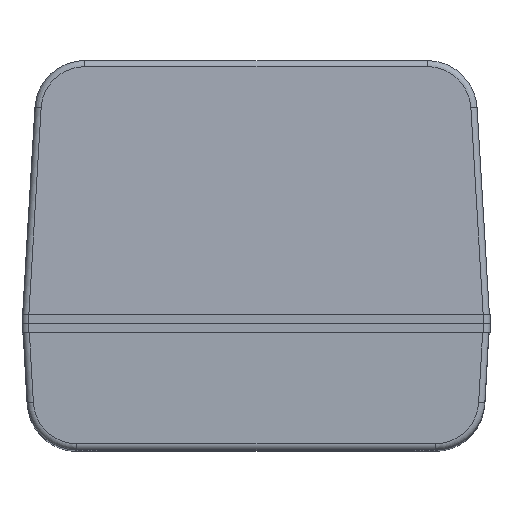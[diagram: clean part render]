
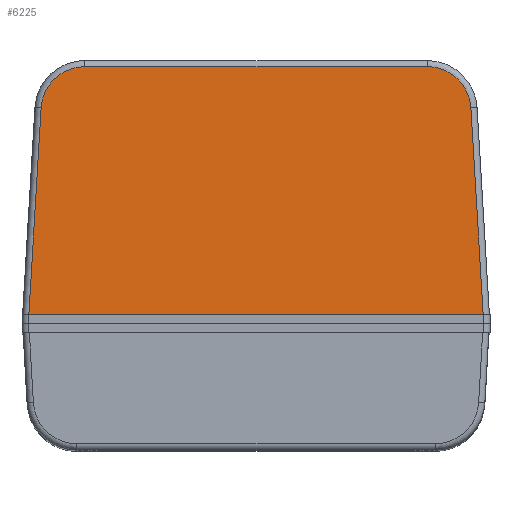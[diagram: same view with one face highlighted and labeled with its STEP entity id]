
A CAD part, top view. The second image highlights one B-rep face of the part: STEP entity #6225.
In plain terms, the highlighted planar face has unit normal (0, 0.018, 1).
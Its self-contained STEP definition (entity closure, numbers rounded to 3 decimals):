
#598 = CARTESIAN_POINT ( 'NONE',  ( -27.5, 41.218, 64.768 ) ) ;
#932 = DIRECTION ( 'NONE',  ( 0., -0.018, -1. ) ) ;
#1044 = VERTEX_POINT ( 'NONE', #5350 ) ;
#1201 = CARTESIAN_POINT ( 'NONE',  ( 34.488, 34.634, 64.889 ) ) ;
#1369 = VECTOR ( 'NONE', #1580, 1000. ) ;
#1505 = ORIENTED_EDGE ( 'NONE', *, *, #11378, .T. ) ;
#1580 = DIRECTION ( 'NONE',  ( -0.059, 0.998, -0.018 ) ) ;
#1985 = VECTOR ( 'NONE', #10039, 1000. ) ;
#2092 = EDGE_CURVE ( 'NONE', #4449, #7872, #11106, .T. ) ;
#2468 = CARTESIAN_POINT ( 'NONE',  ( -27.5, 41.218, 64.768 ) ) ;
#2507 = CARTESIAN_POINT ( 'NONE',  ( -31.41, 41.218, 64.768 ) ) ;
#2821 = ORIENTED_EDGE ( 'NONE', *, *, #6419, .T. ) ;
#3110 =( BOUNDED_CURVE ( )  B_SPLINE_CURVE ( 3, ( #598, #2507, #3537, #14192 ),
 .UNSPECIFIED., .F., .T. ) 
 B_SPLINE_CURVE_WITH_KNOTS ( ( 4, 4 ),
 ( 3.142, 4.653 ),
 .UNSPECIFIED. ) 
 CURVE ( )  GEOMETRIC_REPRESENTATION_ITEM ( )  RATIONAL_B_SPLINE_CURVE ( ( 1., 0.819, 0.819, 1. ) ) 
 REPRESENTATION_ITEM ( '' )  );
#3537 = CARTESIAN_POINT ( 'NONE',  ( -34.255, 38.537, 64.817 ) ) ;
#3585 = CARTESIAN_POINT ( 'NONE',  ( 37.238, 1.5, 65.5 ) ) ;
#4449 = VERTEX_POINT ( 'NONE', #8213 ) ;
#4625 = CARTESIAN_POINT ( 'NONE',  ( 31.41, 41.218, 64.768 ) ) ;
#5161 = VERTEX_POINT ( 'NONE', #7602 ) ;
#5350 = CARTESIAN_POINT ( 'NONE',  ( 27.5, 41.218, 64.768 ) ) ;
#6002 = FACE_OUTER_BOUND ( 'NONE', #10119, .T. ) ;
#6225 = ADVANCED_FACE ( 'NONE', ( #6002 ), #12633, .F. ) ;
#6233 = EDGE_CURVE ( 'NONE', #5161, #13722, #3110, .T. ) ;
#6419 = EDGE_CURVE ( 'NONE', #1044, #5161, #14416, .T. ) ;
#7278 = CARTESIAN_POINT ( 'NONE',  ( 34.489, 34.616, 64.89 ) ) ;
#7363 =( BOUNDED_CURVE ( )  B_SPLINE_CURVE ( 3, ( #10215, #15117, #4625, #12839 ),
 .UNSPECIFIED., .F., .F. ) 
 B_SPLINE_CURVE_WITH_KNOTS ( ( 4, 4 ),
 ( 1.63, 3.142 ),
 .UNSPECIFIED. ) 
 CURVE ( )  GEOMETRIC_REPRESENTATION_ITEM ( )  RATIONAL_B_SPLINE_CURVE ( ( 1., 0.819, 0.819, 1. ) ) 
 REPRESENTATION_ITEM ( '' )  );
#7591 = EDGE_CURVE ( 'NONE', #4449, #13478, #14193, .T. ) ;
#7602 = CARTESIAN_POINT ( 'NONE',  ( -27.5, 41.218, 64.768 ) ) ;
#7733 = DIRECTION ( 'NONE',  ( -1., 0., 0. ) ) ;
#7853 = LINE ( 'NONE', #8034, #1985 ) ;
#7872 = VERTEX_POINT ( 'NONE', #14276 ) ;
#8034 = CARTESIAN_POINT ( 'NONE',  ( -36.463, 1.441, 65.501 ) ) ;
#8213 = CARTESIAN_POINT ( 'NONE',  ( 36.46, 1.5, 65.5 ) ) ;
#8582 = ORIENTED_EDGE ( 'NONE', *, *, #13190, .T. ) ;
#10039 = DIRECTION ( 'NONE',  ( -0.059, -0.998, 0.018 ) ) ;
#10119 = EDGE_LOOP ( 'NONE', ( #15152, #8582, #11346, #15037, #1505, #2821 ) ) ;
#10215 = CARTESIAN_POINT ( 'NONE',  ( 34.488, 34.634, 64.889 ) ) ;
#10481 = DIRECTION ( 'NONE',  ( -1., 0., 0. ) ) ;
#11106 = LINE ( 'NONE', #3585, #13485 ) ;
#11128 = AXIS2_PLACEMENT_3D ( 'NONE', #13431, #932, #11823 ) ;
#11346 = ORIENTED_EDGE ( 'NONE', *, *, #2092, .F. ) ;
#11378 = EDGE_CURVE ( 'NONE', #13478, #1044, #7363, .T. ) ;
#11823 = DIRECTION ( 'NONE',  ( 0., 1., -0.018 ) ) ;
#12283 = CARTESIAN_POINT ( 'NONE',  ( -34.488, 34.634, 64.889 ) ) ;
#12633 = PLANE ( 'NONE',  #11128 ) ;
#12839 = CARTESIAN_POINT ( 'NONE',  ( 27.5, 41.218, 64.768 ) ) ;
#13190 = EDGE_CURVE ( 'NONE', #13722, #7872, #7853, .T. ) ;
#13431 = CARTESIAN_POINT ( 'NONE',  ( -37.57, 1.5, 65.5 ) ) ;
#13478 = VERTEX_POINT ( 'NONE', #1201 ) ;
#13485 = VECTOR ( 'NONE', #10481, 1000. ) ;
#13722 = VERTEX_POINT ( 'NONE', #12283 ) ;
#14061 = VECTOR ( 'NONE', #7733, 1000. ) ;
#14192 = CARTESIAN_POINT ( 'NONE',  ( -34.488, 34.634, 64.889 ) ) ;
#14193 = LINE ( 'NONE', #7278, #1369 ) ;
#14276 = CARTESIAN_POINT ( 'NONE',  ( -36.46, 1.5, 65.5 ) ) ;
#14416 = LINE ( 'NONE', #2468, #14061 ) ;
#15037 = ORIENTED_EDGE ( 'NONE', *, *, #7591, .T. ) ;
#15117 = CARTESIAN_POINT ( 'NONE',  ( 34.255, 38.537, 64.817 ) ) ;
#15152 = ORIENTED_EDGE ( 'NONE', *, *, #6233, .T. ) ;
